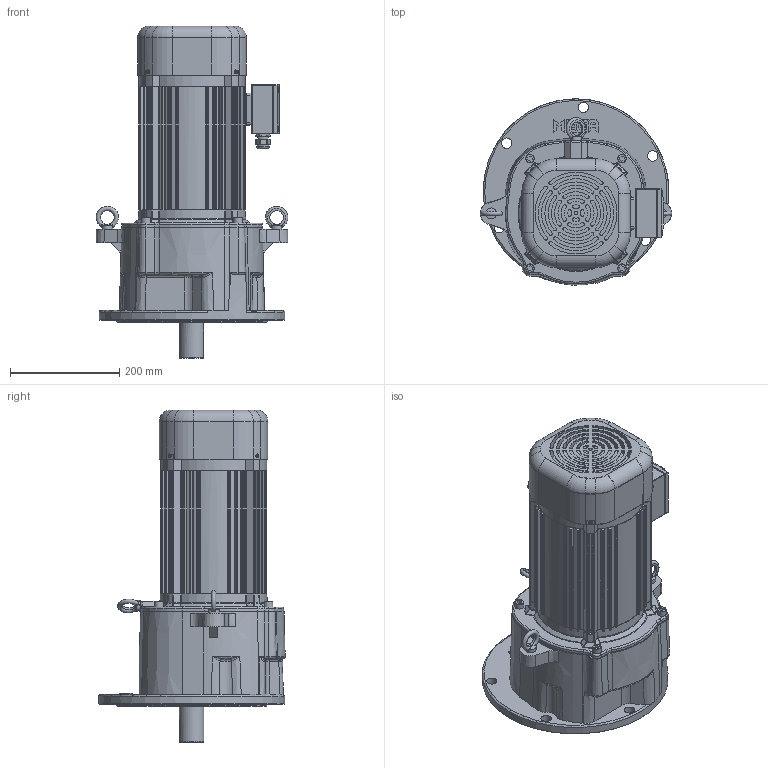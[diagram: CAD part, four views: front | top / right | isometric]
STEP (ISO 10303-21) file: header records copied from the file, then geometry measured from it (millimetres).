
FILE_DESCRIPTION(/* description */ (''),/* implementation_level */ '2;1');
FILE_NAME(/* name */ 'Z:\동력 3D 파일\PMK172_2.2kW_Brake_3D.stp',/* time_stamp */ '2021-12-01T09:08:28+09:00',/* author */ ('jaebok'),/* organization */ (''),/* preprocessor_version */ 'ST-DEVELOPER v18.1',/* originating_system */ 'Autodesk Inventor 2022',/* authorisation */ '');
FILE_SCHEMA (('AUTOMOTIVE_DESIGN { 1 0 10303 214 3 1 1 }'));
Products named in the file (1): 부품7
Bounding box: 351.17 x 341.06 x 607.6 mm (x, y, z)
Volume: 8487504.9 mm3; surface area: 1482675.9 mm2
Topology: 2 solids, 35 shells, 2864 faces, 7364 edges, 4572 vertices
Faces by surface type: plane 1053, cylinder 788, bspline 579, cone 203, torus 201, sphere 40
Full cylindrical faces by diameter (mm): 3.242 x4, 3.25 x1, 3.6 x4, 4 x21, 5 x13, 6 x5, 6.8 x4, 7 x8, 8 x8, 8.376 x6, 8.4 x1, 8.8 x3, 9 x4, 10 x7, 11 x4, 12.5 x1, 15 x1, 16 x4, 19 x6, 20 x2, 21 x1, 23.5 x1, 23.6 x1, 25 x4, 36 x2, 45 x1, 48 x1, 50 x1, 52 x4, 55 x1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
Entity records: 108483 total; most frequent: CARTESIAN_POINT 38846, ORIENTED_EDGE 14536, DIRECTION 13108, EDGE_CURVE 7268, AXIS2_PLACEMENT_3D 5112, VERTEX_POINT 4572, EDGE_LOOP 3096, LINE 2884
